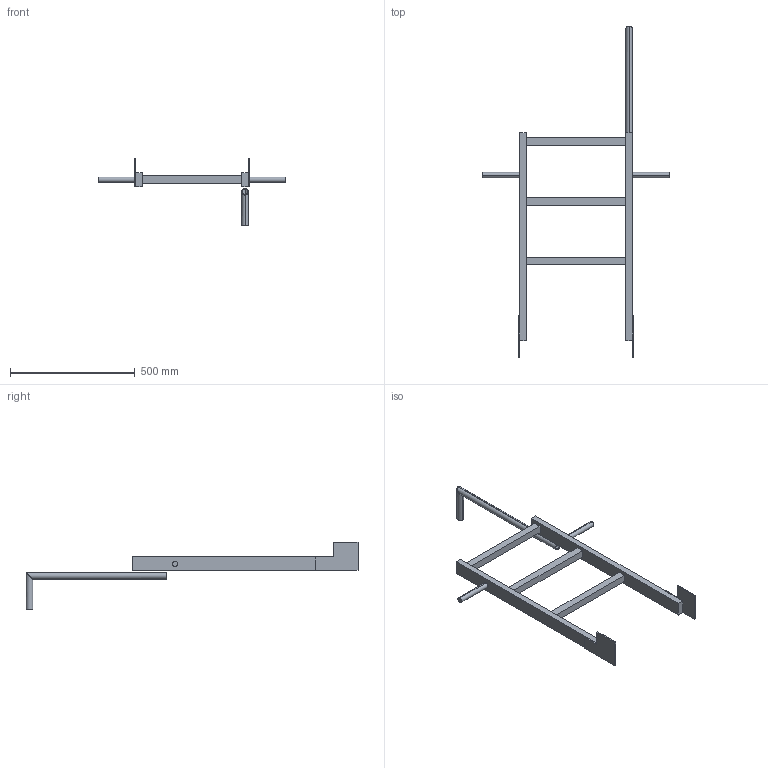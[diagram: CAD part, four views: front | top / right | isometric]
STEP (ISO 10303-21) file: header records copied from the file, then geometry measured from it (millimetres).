
FILE_DESCRIPTION((''),'2;1');
FILE_NAME('52331380','2024-12-18T09:12:19',('wep'),('HUBER SE'),'CREO PARAMETRIC BY PTC INC, 2022162','CREO PARAMETRIC BY PTC INC, 2022162','');
FILE_SCHEMA(('AUTOMOTIVE_DESIGN { 1 0 10303 214 1 1 1 1 }'));
Length unit declared in the file: millimetre
Products named in the file (1): 52331380
Bounding box: 750 x 1330.45 x 271.35 mm (x, y, z)
Volume: 3824192.3 mm3; surface area: 590121.8 mm2
Topology: 2 solids, 2 shells, 56 faces, 140 edges, 92 vertices
Faces by surface type: plane 44, cylinder 12
Entity records: 2417 total; most frequent: CARTESIAN_POINT 506, ORIENTED_EDGE 280, DIRECTION 260, EDGE_CURVE 140, VECTOR 116, LINE 116, COLOUR_RGB 106, VERTEX_POINT 92
